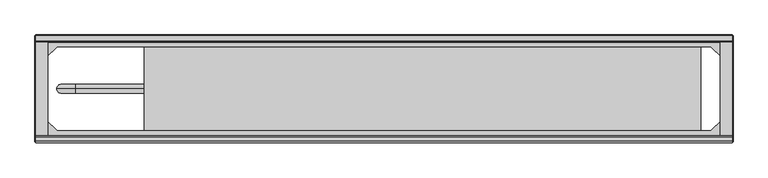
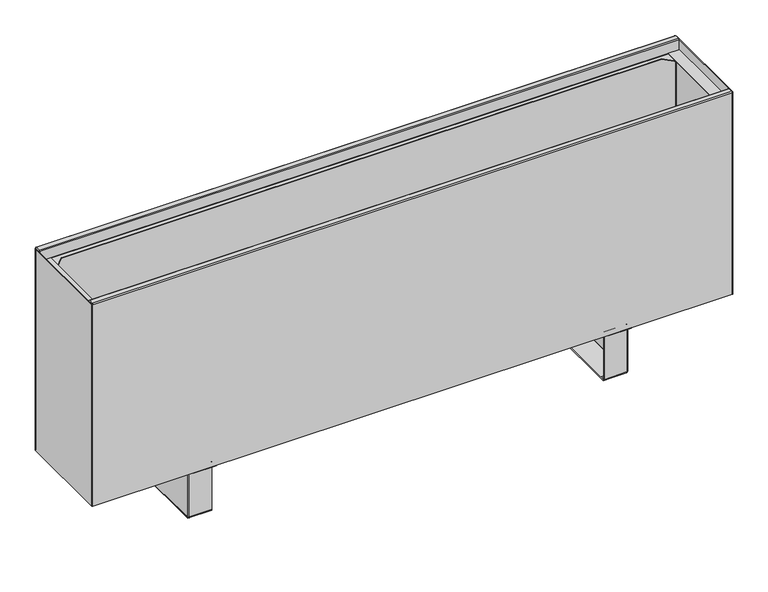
"""IFC4 building model written with IfcOpenShell, lengths in millimetres: proxy geometry, TECHNO_Конвектор напольный_Vita KPZ 185 : KPZ 185-400-2."""

from ifc_helpers import new_model, si_unit, point, frame, origin, place, context, project, spatial, polyline, circle_curve, ellipse_curve, trimmed, outline, extrude, source, transform, mapped, element, save
from ifc_brep_helpers import plane_surface, cylinder_surface, revolved_surface, advanced_brep


def mechanical_equipment_c19d1119(model_context):
    return source(origin(), model_context, "Body", "SolidModel", [
        advanced_brep(
        [(409.7, -116.8, 1.5), (409.7, -114.5, 3.8), (409.7, -114.5, 4.9), (409.7, -116.0, 4.9), (409.7, -116.0, 3.8), (409.7, -116.8, 3.0), (409.7, -124.5, 3.0), (409.7, -124.5, 1.5), (409.7, -117.6, 1.5), (409.7, -114.5, 97.7), (409.7, -113.7, 98.5), (409.7, -101.0, 98.5), (409.7, -101.0, 100.0), (409.7, -113.7, 100.0), (409.7, -116.0, 97.7), (409.7, -116.0, 95.5), (409.7, -114.5, 95.5), (409.7, -270.5, 3.8), (409.7, -268.2, 1.5), (409.7, -267.4, 1.5), (409.7, -260.5, 1.5), (409.7, -260.5, 3.0), (409.7, -268.2, 3.0), (409.7, -269.0, 3.8), (409.7, -269.0, 4.9), (409.7, -270.5, 4.9), (409.7, -269.0, 97.7), (409.7, -271.3, 100.0), (409.7, -284.0, 100.0), (409.7, -284.0, 98.5), (409.7, -271.3, 98.5), (409.7, -270.5, 97.7), (409.7, -270.5, 95.5), (409.7, -269.0, 95.5), (367.0, -270.5, 97.7), (367.0, -271.3, 98.5), (367.0, -284.0, 98.5), (367.0, -284.0, 100.0), (367.0, -271.3, 100.0), (367.0, -269.0, 97.7), (367.0, -269.0, 3.8), (367.0, -268.2, 3.0), (367.0, -260.5, 3.0), (367.0, -260.5, 1.5), (367.0, -124.5, 1.5), (367.0, -124.5, 3.0), (367.0, -116.8, 3.0), (367.0, -116.0, 3.8), (367.0, -116.0, 97.7), (367.0, -113.7, 100.0), (367.0, -101.0, 100.0), (367.0, -101.0, 98.5), (367.0, -113.7, 98.5), (367.0, -114.5, 97.7), (367.0, -114.5, 3.8), (367.0, -116.8, 1.5), (367.0, -117.6, 1.5), (367.0, -117.6, 0.0), (367.0, -267.4, 0.0), (367.0, -267.4, 1.5), (367.0, -268.2, 1.5), (367.0, -270.5, 3.8), (410.5, -116.8, 95.5), (410.5, -268.2, 95.5), (412.0, -268.2, 95.5), (412.0, -116.8, 95.5), (412.0, -116.8, 4.9), (412.0, -117.6, 4.9), (410.5, -117.6, 4.9), (410.5, -116.8, 4.9), (410.5, -268.2, 4.9), (410.5, -267.4, 4.9), (412.0, -267.4, 4.9), (412.0, -268.2, 4.9), (410.5, -117.6, 2.3), (410.5, -267.4, 2.3), (411.9999999, -267.4, 2.3), (412.0, -117.6, 2.3), (409.7, -117.6, 0.0), (409.7, -267.4, 0.0)],
        [
            (0, 1, circle_curve(frame((409.7, -116.8, 3.8), z_axis=(1.0, 0.0, 0.0), x_axis=(0.0, -1.0, 0.0)), 2.3)),
            (1, 2),
            (2, 3),
            (3, 4),
            (4, 5, circle_curve(frame((409.7, -116.8, 3.8), z_axis=(-1.0, 0.0, 0.0), x_axis=(0.0, -1.0, 0.0)), 0.8)),
            (5, 6),
            (6, 7),
            (7, 8),
            (8, 0),
            (9, 10, circle_curve(frame((409.7, -113.7, 97.7), z_axis=(-1.0, 0.0, 0.0), x_axis=(0.0, -1.0, 0.0)), 0.8)),
            (10, 11),
            (11, 12),
            (12, 13),
            (13, 14, circle_curve(frame((409.7, -113.7, 97.7), z_axis=(1.0, 0.0, 0.0), x_axis=(0.0, -1.0, 0.0)), 2.3)),
            (14, 15),
            (15, 16),
            (16, 9),
            (17, 18, circle_curve(frame((409.7, -268.2, 3.8), z_axis=(1.0, 0.0, 0.0), x_axis=(0.0, -1.0, 0.0)), 2.3)),
            (18, 19),
            (19, 20),
            (20, 21),
            (21, 22),
            (22, 23, circle_curve(frame((409.7, -268.2, 3.8), z_axis=(-1.0, 0.0, 0.0), x_axis=(0.0, -1.0, 0.0)), 0.8)),
            (23, 24),
            (24, 25),
            (25, 17),
            (26, 27, circle_curve(frame((409.7, -271.3, 97.7), z_axis=(1.0, 0.0, 0.0), x_axis=(0.0, -1.0, 0.0)), 2.3)),
            (27, 28),
            (28, 29),
            (29, 30),
            (30, 31, circle_curve(frame((409.7, -271.3, 97.7), z_axis=(-1.0, 0.0, 0.0), x_axis=(0.0, -1.0, 0.0)), 0.8)),
            (31, 32),
            (32, 33),
            (33, 26),
            (34, 35, circle_curve(frame((367.0, -271.3, 97.7), z_axis=(1.0, 0.0, 0.0), x_axis=(0.0, -1.0, 0.0)), 0.8)),
            (35, 36),
            (36, 37),
            (37, 38),
            (38, 39, circle_curve(frame((367.0, -271.3, 97.7), z_axis=(-1.0, 0.0, 0.0), x_axis=(0.0, -1.0, 0.0)), 2.3)),
            (39, 40),
            (40, 41, circle_curve(frame((367.0, -268.2, 3.8), z_axis=(1.0, 0.0, 0.0), x_axis=(0.0, -1.0, 0.0)), 0.8)),
            (41, 42),
            (42, 43),
            (43, 44),
            (44, 45),
            (45, 46),
            (46, 47, circle_curve(frame((367.0, -116.8, 3.8), z_axis=(1.0, 0.0, 0.0), x_axis=(0.0, -1.0, 0.0)), 0.8)),
            (47, 48),
            (48, 49, circle_curve(frame((367.0, -113.7, 97.7), z_axis=(-1.0, 0.0, 0.0), x_axis=(0.0, -1.0, 0.0)), 2.3)),
            (49, 50),
            (50, 51),
            (51, 52),
            (52, 53, circle_curve(frame((367.0, -113.7, 97.7), z_axis=(1.0, 0.0, 0.0), x_axis=(0.0, -1.0, 0.0)), 0.8)),
            (53, 54),
            (54, 55, circle_curve(frame((367.0, -116.8, 3.8), z_axis=(-1.0, 0.0, 0.0), x_axis=(0.0, -1.0, 0.0)), 2.3)),
            (55, 56),
            (56, 57),
            (57, 58),
            (58, 59),
            (59, 60),
            (60, 61, circle_curve(frame((367.0, -268.2, 3.8), z_axis=(-1.0, 0.0, 0.0), x_axis=(0.0, -1.0, 0.0)), 2.3)),
            (61, 34),
            (30, 35),
            (34, 31),
            (29, 36),
            (28, 37),
            (27, 38),
            (26, 39),
            (33, 24),
            (23, 40),
            (22, 41),
            (5, 46),
            (45, 6),
            (4, 47),
            (3, 15),
            (14, 48),
            (13, 49),
            (12, 50),
            (11, 51),
            (10, 52),
            (9, 53),
            (16, 2),
            (1, 54),
            (0, 55),
            (8, 56),
            (17, 61),
            (60, 18),
            (25, 32),
            (21, 42),
            (20, 43),
            (59, 19),
            (44, 7),
            (15, 62, circle_curve(frame((409.7, -116.8, 95.5), z_axis=(0.0, 0.0, -1.0), x_axis=(-1.0, 0.0, 0.0)), 0.8)),
            (62, 63),
            (63, 33, circle_curve(frame((409.7, -268.2, 95.5), z_axis=(0.0, 0.0, -1.0), x_axis=(-1.0, 0.0, 0.0)), 0.8)),
            (32, 64, circle_curve(frame((409.7, -268.2, 95.5), z_axis=(0.0, 0.0, 1.0), x_axis=(-1.0, 0.0, 0.0)), 2.3)),
            (64, 65),
            (65, 16, circle_curve(frame((409.7, -116.8, 95.5), z_axis=(0.0, 0.0, 1.0), x_axis=(-1.0, 0.0, 0.0)), 2.3)),
            (2, 66, circle_curve(frame((409.7, -116.8, 4.9), z_axis=(0.0, 0.0, -1.0), x_axis=(-1.0, 0.0, 0.0)), 2.3)),
            (66, 67),
            (67, 68),
            (68, 69),
            (69, 3, circle_curve(frame((409.7, -116.8, 4.9), z_axis=(0.0, 0.0, 1.0), x_axis=(-1.0, 0.0, 0.0)), 0.8)),
            (24, 70, circle_curve(frame((409.7, -268.2, 4.9), z_axis=(0.0, 0.0, 1.0), x_axis=(-1.0, 0.0, 0.0)), 0.8)),
            (70, 71),
            (71, 72),
            (72, 73),
            (73, 25, circle_curve(frame((409.7, -268.2, 4.9), z_axis=(0.0, 0.0, -1.0), x_axis=(-1.0, 0.0, 0.0)), 2.3)),
            (69, 62),
            (68, 74),
            (74, 75),
            (75, 71),
            (70, 63),
            (64, 73),
            (72, 76),
            (76, 77),
            (77, 67),
            (66, 65),
            (8, 74, circle_curve(frame((409.7, -117.6, 2.3), z_axis=(0.0, -1.0, 0.0), x_axis=(-1.0, 0.0, 0.0)), 0.8)),
            (77, 78, circle_curve(frame((409.7, -117.6, 2.3), z_axis=(0.0, 1.0, 0.0), x_axis=(-1.0, 0.0, 0.0)), 2.3)),
            (78, 57),
            (58, 79),
            (79, 76, circle_curve(frame((409.7, -267.4, 2.3), z_axis=(0.0, -1.0, 0.0), x_axis=(-1.0, 0.0, 0.0)), 2.3)),
            (75, 19, circle_curve(frame((409.7, -267.4, 2.3), z_axis=(0.0, 1.0, 0.0), x_axis=(-1.0, 0.0, 0.0)), 0.8)),
            (20, 7),
            (79, 78),
        ],
        [
            plane_surface(frame((409.7, -272.1, 97.7), z_axis=(1.0, 0.0, 0.0), x_axis=(0.0, 0.0, 1.0))),
            plane_surface(frame((367.0, -272.1, 97.7), z_axis=(-1.0, 0.0, 0.0), x_axis=(0.0, 0.0, -1.0))),
            revolved_surface(polyline([(409.7, -272.1, 97.7), (367.0, -272.1, 97.7)]), (409.7, -271.3, 97.7), (1.0, 0.0, 0.0)),
            plane_surface(frame((367.0, -271.3, 98.5), z_axis=(0.0, 0.0, -1.0), x_axis=(1.0, 0.0, 0.0))),
            plane_surface(frame((367.0, -284.0, 98.5), z_axis=(0.0, -1.0, 0.0), x_axis=(1.0, 0.0, 0.0))),
            plane_surface(frame((367.0, -284.0, 100.0), z_axis=(0.0, 0.0, 1.0), x_axis=(1.0, 0.0, 0.0))),
            cylinder_surface(frame((409.7, -271.3, 97.7), z_axis=(-1.0, 0.0, 0.0), x_axis=(0.0, -1.0, 0.0)), 2.3),
            plane_surface(frame((367.0, -269.0, 97.7), z_axis=(0.0, 1.0, 3.692083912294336e-12), x_axis=(1.0, 0.0, 0.0))),
            revolved_surface(polyline([(409.7, -269.0, 3.8), (367.0, -269.0, 3.8)]), (409.7, -268.2, 3.8), (1.0, 0.0, 0.0)),
            plane_surface(frame((367.0, -124.5, 3.0), z_axis=(0.0, 0.0, 1.0), x_axis=(1.0, 0.0, 0.0))),
            revolved_surface(polyline([(409.7, -117.6, 3.8), (367.0, -117.6, 3.8)]), (412.0, -116.8, 3.8), (1.0, 0.0, 0.0)),
            plane_surface(frame((367.0, -116.0, 3.8), z_axis=(0.0, -1.0, 0.0), x_axis=(1.0, 0.0, 0.0))),
            cylinder_surface(frame((412.0, -113.7, 97.7), z_axis=(-1.0, 0.0, 0.0), x_axis=(0.0, -1.0, 0.0)), 2.3),
            plane_surface(frame((367.0, -113.7, 100.0), z_axis=(0.0, 0.0, 1.0), x_axis=(1.0, 0.0, 0.0))),
            plane_surface(frame((367.0, -101.0, 100.0), z_axis=(0.0, 1.0, 0.0), x_axis=(1.0, 0.0, 0.0))),
            plane_surface(frame((367.0, -101.0, 98.5), z_axis=(0.0, 0.0, -1.0), x_axis=(1.0, 0.0, 0.0))),
            revolved_surface(polyline([(409.7, -114.5, 97.7), (367.0, -114.5, 97.7)]), (412.0, -113.7, 97.7), (1.0, 0.0, 0.0)),
            plane_surface(frame((367.0, -114.5, 97.7), z_axis=(0.0, 1.0, 0.0), x_axis=(1.0, 0.0, 0.0))),
            cylinder_surface(frame((412.0, -116.8, 3.8), z_axis=(-1.0, 0.0, 0.0), x_axis=(0.0, -1.0, 0.0)), 2.3),
            plane_surface(frame((367.0, -116.8, 1.5), z_axis=(0.0, 0.0, -1.0), x_axis=(1.0, 0.0, 0.0))),
            cylinder_surface(frame((409.7, -268.2, 3.8), z_axis=(-1.0, 0.0, 0.0), x_axis=(0.0, -1.0, 0.0)), 2.3),
            plane_surface(frame((367.0, -270.5, 3.8), z_axis=(0.0, -1.0, 0.0), x_axis=(1.0, 0.0, 0.0))),
            plane_surface(frame((367.0, -268.2, 3.0), z_axis=(0.0, 0.0, 1.0), x_axis=(1.0, 0.0, 0.0))),
            plane_surface(frame((367.0, -260.5, 3.0), z_axis=(0.0, 1.0, 0.0), x_axis=(1.0, 0.0, 0.0))),
            plane_surface(frame((367.0, -260.5, 1.5), z_axis=(0.0, 0.0, -1.0), x_axis=(1.0, 0.0, 0.0))),
            plane_surface(frame((367.0, -124.5, 1.5), z_axis=(0.0, -1.0, 0.0), x_axis=(1.0, 0.0, 0.0))),
            plane_surface(frame((409.7, -116.0, 95.5), z_axis=(0.0, 0.0, 1.0), x_axis=(0.0, -1.0, 0.0))),
            plane_surface(frame((409.7, -116.0, 4.9), z_axis=(0.0, 0.0, -1.0), x_axis=(0.0, 1.0, 0.0))),
            revolved_surface(polyline([(408.9, -116.8, 4.9), (408.9, -116.8, 95.5)]), (409.7, -116.8, 4.9), (0.0, 0.0, -1.0)),
            plane_surface(frame((410.5, -116.8, 95.5), z_axis=(-1.0, 0.0, 0.0), x_axis=(0.0, 0.0, -1.0))),
            plane_surface(frame((412.0, -117.6, 95.5), z_axis=(1.0, -4.322665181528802e-10, 0.0), x_axis=(0.0, 0.0, -1.0))),
            cylinder_surface(frame((409.7, -116.8, 4.9), z_axis=(0.0, 0.0, 1.0), x_axis=(-1.0, 0.0, 0.0)), 2.3),
            cylinder_surface(frame((409.7, -268.2, 0.0), z_axis=(0.0, 0.0, 1.0), x_axis=(-1.0, 0.0, 0.0)), 2.3),
            revolved_surface(polyline([(408.9, -268.2, 4.9), (408.9, -268.2, 95.5)]), (409.7, -268.2, 0.0), (0.0, 0.0, -1.0)),
            plane_surface(frame((367.0, -117.6, 1.5), z_axis=(0.0, 1.0, 0.0), x_axis=(0.0, 0.0, 1.0))),
            plane_surface(frame((367.0, -267.4, 1.5), z_axis=(0.0, -1.0, 0.0), x_axis=(0.0, 0.0, -1.0))),
            plane_surface(frame((367.0, -117.6, 1.5), z_axis=(0.0, 0.0, 1.0), x_axis=(0.0, -1.0, 0.0))),
            revolved_surface(polyline([(408.9, -267.4, 2.3), (408.9, -117.6, 2.3)]), (409.7, -267.4, 2.3), (0.0, -1.0, 0.0)),
            cylinder_surface(frame((409.7, -267.4, 2.3), z_axis=(0.0, 1.0, 0.0), x_axis=(-1.0, 0.0, 0.0)), 2.3),
            plane_surface(frame((409.7, -117.6, 0.0), z_axis=(0.0, 0.0, -1.0), x_axis=(0.0, -1.0, 0.0))),
        ],
        [
            (0, [[1, 2, 3, 4, 5, 6, 7, 8, 9]]),
            (0, [[10, 11, 12, 13, 14, 15, 16, 17]]),
            (0, [[18, 19, 20, 21, 22, 23, 24, 25, 26]]),
            (0, [[27, 28, 29, 30, 31, 32, 33, 34]]),
            (1, [[35, 36, 37, 38, 39, 40, 41, 42, 43, 44, 45, 46, 47, 48, 49, 50, 51, 52, 53, 54, 55, 56, 57, 58, 59, 60, 61, 62]]),
            (2, [[-31, 63, -35, 64]]),
            (3, [[-30, 65, -36, -63]]),
            (4, [[-29, 66, -37, -65]]),
            (5, [[-28, 67, -38, -66]]),
            (6, [[-27, 68, -39, -67]]),
            (7, [[-40, -68, -34, 69, -24, 70]]),
            (8, [[-23, 71, -41, -70]]),
            (9, [[-6, 72, -46, 73]]),
            (10, [[-5, 74, -47, -72]]),
            (11, [[-48, -74, -4, 75, -15, 76]]),
            (12, [[-14, 77, -49, -76]]),
            (13, [[-13, 78, -50, -77]]),
            (14, [[-12, 79, -51, -78]]),
            (15, [[-11, 80, -52, -79]]),
            (16, [[-10, 81, -53, -80]]),
            (17, [[-54, -81, -17, 82, -2, 83]]),
            (18, [[-1, 84, -55, -83]]),
            (19, [[-84, -9, 85, -56]]),
            (20, [[-18, 86, -61, 87]]),
            (21, [[-62, -86, -26, 88, -32, -64]]),
            (22, [[-22, 89, -42, -71]]),
            (23, [[-21, 90, -43, -89]]),
            (24, [[-87, -60, 91, -19]]),
            (25, [[-7, -73, -45, 92]]),
            (26, [[93, 94, 95, -33, 96, 97, 98, -16]]),
            (27, [[99, 100, 101, 102, 103, -3]]),
            (27, [[104, 105, 106, 107, 108, -25]]),
            (28, [[-93, -75, -103, 109]]),
            (29, [[-94, -109, -102, 110, 111, 112, -105, 113]]),
            (30, [[-97, 114, -107, 115, 116, 117, -100, 118]]),
            (31, [[-98, -118, -99, -82]]),
            (32, [[-96, -88, -108, -114]]),
            (33, [[-95, -113, -104, -69]]),
            (34, [[-57, -85, 119, -110, -101, -117, 120, 121]]),
            (35, [[122, 123, -115, -106, -112, 124, -91, -59]]),
            (36, [[125, -92, -44, -90]]),
            (37, [[-119, -8, -125, -20, -124, -111]]),
            (38, [[-120, -116, -123, 126]]),
            (39, [[-121, -126, -122, -58]]),
        ],
    ),
        advanced_brep(
        [(-409.7, -268.2, 1.5), (-409.7, -270.5, 3.8), (-409.7, -270.5, 4.9), (-409.7, -269.0, 4.9), (-409.7, -269.0, 3.8), (-409.7, -268.2, 3.0), (-409.7, -260.5, 3.0), (-409.7, -260.5, 1.5), (-409.7, -267.4, 1.5), (-409.7, -270.5, 97.7), (-409.7, -271.3, 98.5), (-409.7, -284.0, 98.5), (-409.7, -284.0, 100.0), (-409.7, -271.3, 100.0), (-409.7, -269.0, 97.7), (-409.7, -269.0, 95.5), (-409.7, -270.5, 95.5), (-409.7, -114.5, 3.8), (-409.7, -116.8, 1.5), (-409.7, -117.6, 1.5), (-409.7, -124.5, 1.5), (-409.7, -124.5, 3.0), (-409.7, -116.8, 3.0), (-409.7, -116.0, 3.8), (-409.7, -116.0, 4.9), (-409.7, -114.5, 4.9), (-409.7, -116.0, 97.7), (-409.7, -113.7, 100.0), (-409.7, -101.0, 100.0), (-409.7, -101.0, 98.5), (-409.7, -113.7, 98.5), (-409.7, -114.5, 97.7), (-409.7, -114.5, 95.5), (-409.7, -116.0, 95.5), (-367.0, -114.5, 97.7), (-367.0, -113.7, 98.5), (-367.0, -101.0, 98.5), (-367.0, -101.0, 100.0), (-367.0, -113.7, 100.0), (-367.0, -116.0, 97.7), (-367.0, -116.0, 3.8), (-367.0, -116.8, 3.0), (-367.0, -124.5, 3.0), (-367.0, -124.5, 1.5), (-367.0, -260.5, 1.5), (-367.0, -260.5, 3.0), (-367.0, -268.2, 3.0), (-367.0, -269.0, 3.8), (-367.0, -269.0, 97.7), (-367.0, -271.3, 100.0), (-367.0, -284.0, 100.0), (-367.0, -284.0, 98.5), (-367.0, -271.3, 98.5), (-367.0, -270.5, 97.7), (-367.0, -270.5, 3.8), (-367.0, -268.2, 1.5), (-367.0, -267.4, 1.5), (-367.0, -267.4, 0.0), (-367.0, -117.6, 0.0), (-367.0, -117.6, 1.5), (-367.0, -116.8, 1.5), (-367.0, -114.5, 3.8), (-410.5, -268.2, 95.5), (-410.5, -116.8, 95.5), (-412.0, -116.8, 95.5), (-412.0, -268.2, 95.5), (-412.0, -268.2, 4.9), (-412.0, -267.4, 4.9), (-410.5, -267.4, 4.9), (-410.5, -268.2, 4.9), (-410.5, -116.8, 4.9), (-410.5, -117.6, 4.9), (-412.0, -117.6, 4.9), (-412.0, -116.8, 4.9), (-410.5, -267.4, 2.3), (-410.5, -117.6, 2.3), (-411.9999999, -117.6, 2.3), (-412.0, -267.4, 2.3), (-409.7, -267.4, 0.0), (-409.7, -117.6, 0.0)],
        [
            (0, 1, circle_curve(frame((-409.7, -268.2, 3.8), z_axis=(-1.0, 0.0, 0.0), x_axis=(0.0, 1.0, 0.0)), 2.3)),
            (1, 2),
            (2, 3),
            (3, 4),
            (4, 5, circle_curve(frame((-409.7, -268.2, 3.8), z_axis=(1.0, 0.0, 0.0), x_axis=(0.0, 1.0, 0.0)), 0.8)),
            (5, 6),
            (6, 7),
            (7, 8),
            (8, 0),
            (9, 10, circle_curve(frame((-409.7, -271.3, 97.7), z_axis=(1.0, 0.0, 0.0), x_axis=(0.0, 1.0, 0.0)), 0.8)),
            (10, 11),
            (11, 12),
            (12, 13),
            (13, 14, circle_curve(frame((-409.7, -271.3, 97.7), z_axis=(-1.0, 0.0, 0.0), x_axis=(0.0, 1.0, 0.0)), 2.3)),
            (14, 15),
            (15, 16),
            (16, 9),
            (17, 18, circle_curve(frame((-409.7, -116.8, 3.8), z_axis=(-1.0, 0.0, 0.0), x_axis=(0.0, 1.0, 0.0)), 2.3)),
            (18, 19),
            (19, 20),
            (20, 21),
            (21, 22),
            (22, 23, circle_curve(frame((-409.7, -116.8, 3.8), z_axis=(1.0, 0.0, 0.0), x_axis=(0.0, 1.0, 0.0)), 0.8)),
            (23, 24),
            (24, 25),
            (25, 17),
            (26, 27, circle_curve(frame((-409.7, -113.7, 97.7), z_axis=(-1.0, 0.0, 0.0), x_axis=(0.0, 1.0, 0.0)), 2.3)),
            (27, 28),
            (28, 29),
            (29, 30),
            (30, 31, circle_curve(frame((-409.7, -113.7, 97.7), z_axis=(1.0, 0.0, 0.0), x_axis=(0.0, 1.0, 0.0)), 0.8)),
            (31, 32),
            (32, 33),
            (33, 26),
            (34, 35, circle_curve(frame((-367.0, -113.7, 97.7), z_axis=(-1.0, 0.0, 0.0), x_axis=(0.0, 1.0, 0.0)), 0.8)),
            (35, 36),
            (36, 37),
            (37, 38),
            (38, 39, circle_curve(frame((-367.0, -113.7, 97.7), z_axis=(1.0, 0.0, 0.0), x_axis=(0.0, 1.0, 0.0)), 2.3)),
            (39, 40),
            (40, 41, circle_curve(frame((-367.0, -116.8, 3.8), z_axis=(-1.0, 0.0, 0.0), x_axis=(0.0, 1.0, 0.0)), 0.8)),
            (41, 42),
            (42, 43),
            (43, 44),
            (44, 45),
            (45, 46),
            (46, 47, circle_curve(frame((-367.0, -268.2, 3.8), z_axis=(-1.0, 0.0, 0.0), x_axis=(0.0, 1.0, 0.0)), 0.8)),
            (47, 48),
            (48, 49, circle_curve(frame((-367.0, -271.3, 97.7), z_axis=(1.0, 0.0, 0.0), x_axis=(0.0, 1.0, 0.0)), 2.3)),
            (49, 50),
            (50, 51),
            (51, 52),
            (52, 53, circle_curve(frame((-367.0, -271.3, 97.7), z_axis=(-1.0, 0.0, 0.0), x_axis=(0.0, 1.0, 0.0)), 0.8)),
            (53, 54),
            (54, 55, circle_curve(frame((-367.0, -268.2, 3.8), z_axis=(1.0, 0.0, 0.0), x_axis=(0.0, 1.0, 0.0)), 2.3)),
            (55, 56),
            (56, 57),
            (57, 58),
            (58, 59),
            (59, 60),
            (60, 61, circle_curve(frame((-367.0, -116.8, 3.8), z_axis=(1.0, 0.0, 0.0), x_axis=(0.0, 1.0, 0.0)), 2.3)),
            (61, 34),
            (30, 35),
            (34, 31),
            (29, 36),
            (28, 37),
            (27, 38),
            (26, 39),
            (33, 24),
            (23, 40),
            (22, 41),
            (5, 46),
            (45, 6),
            (4, 47),
            (3, 15),
            (14, 48),
            (13, 49),
            (12, 50),
            (11, 51),
            (10, 52),
            (9, 53),
            (16, 2),
            (1, 54),
            (0, 55),
            (8, 56),
            (17, 61),
            (60, 18),
            (25, 32),
            (21, 42),
            (20, 43),
            (59, 19),
            (44, 7),
            (15, 62, circle_curve(frame((-409.7, -268.2, 95.5), z_axis=(0.0, 0.0, -1.0), x_axis=(1.0, 0.0, 0.0)), 0.8)),
            (62, 63),
            (63, 33, circle_curve(frame((-409.7, -116.8, 95.5), z_axis=(0.0, 0.0, -1.0), x_axis=(1.0, 0.0, 0.0)), 0.8)),
            (32, 64, circle_curve(frame((-409.7, -116.8, 95.5), z_axis=(0.0, 0.0, 1.0), x_axis=(1.0, 0.0, 0.0)), 2.3)),
            (64, 65),
            (65, 16, circle_curve(frame((-409.7, -268.2, 95.5), z_axis=(0.0, 0.0, 1.0), x_axis=(1.0, 0.0, 0.0)), 2.3)),
            (2, 66, circle_curve(frame((-409.7, -268.2, 4.9), z_axis=(0.0, 0.0, -1.0), x_axis=(1.0, 0.0, 0.0)), 2.3)),
            (66, 67),
            (67, 68),
            (68, 69),
            (69, 3, circle_curve(frame((-409.7, -268.2, 4.9), z_axis=(0.0, 0.0, 1.0), x_axis=(1.0, 0.0, 0.0)), 0.8)),
            (24, 70, circle_curve(frame((-409.7, -116.8, 4.9), z_axis=(0.0, 0.0, 1.0), x_axis=(1.0, 0.0, 0.0)), 0.8)),
            (70, 71),
            (71, 72),
            (72, 73),
            (73, 25, circle_curve(frame((-409.7, -116.8, 4.9), z_axis=(0.0, 0.0, -1.0), x_axis=(1.0, 0.0, 0.0)), 2.3)),
            (69, 62),
            (68, 74),
            (74, 75),
            (75, 71),
            (70, 63),
            (64, 73),
            (72, 76),
            (76, 77),
            (77, 67),
            (66, 65),
            (8, 74, circle_curve(frame((-409.7, -267.4, 2.3), z_axis=(0.0, 1.0, 0.0), x_axis=(1.0, 0.0, 0.0)), 0.8)),
            (77, 78, circle_curve(frame((-409.7, -267.4, 2.3), z_axis=(0.0, -1.0, 0.0), x_axis=(1.0, 0.0, 0.0)), 2.3)),
            (78, 57),
            (58, 79),
            (79, 76, circle_curve(frame((-409.7, -117.6, 2.3), z_axis=(0.0, 1.0, 0.0), x_axis=(1.0, 0.0, 0.0)), 2.3)),
            (75, 19, circle_curve(frame((-409.7, -117.6, 2.3), z_axis=(0.0, -1.0, 0.0), x_axis=(1.0, 0.0, 0.0)), 0.8)),
            (20, 7),
            (79, 78),
        ],
        [
            plane_surface(frame((-409.7, -112.9, 97.7), z_axis=(-1.0, 0.0, 0.0), x_axis=(0.0, 0.0, 1.0))),
            plane_surface(frame((-367.0, -112.9, 97.7), z_axis=(1.0, 0.0, 0.0), x_axis=(0.0, 0.0, -1.0))),
            revolved_surface(polyline([(-409.7, -112.9, 97.7), (-367.0, -112.9, 97.7)]), (-409.7, -113.7, 97.7), (-1.0, 0.0, 0.0)),
            plane_surface(frame((-367.0, -113.7, 98.5), z_axis=(0.0, 0.0, -1.0), x_axis=(-1.0, 0.0, 0.0))),
            plane_surface(frame((-367.0, -101.0, 98.5), z_axis=(0.0, 1.0, 0.0), x_axis=(-1.0, 0.0, 0.0))),
            plane_surface(frame((-367.0, -101.0, 100.0), z_axis=(0.0, 0.0, 1.0), x_axis=(-1.0, 0.0, 0.0))),
            cylinder_surface(frame((-409.7, -113.7, 97.7), z_axis=(1.0, 0.0, 0.0), x_axis=(0.0, 1.0, 0.0)), 2.3),
            plane_surface(frame((-367.0, -116.0, 97.7), z_axis=(0.0, -1.0, 3.692083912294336e-12), x_axis=(-1.0, 0.0, 0.0))),
            revolved_surface(polyline([(-409.7, -116.0, 3.8), (-367.0, -116.0, 3.8)]), (-409.7, -116.8, 3.8), (-1.0, 0.0, 0.0)),
            plane_surface(frame((-367.0, -260.5, 3.0), z_axis=(0.0, 0.0, 1.0), x_axis=(-1.0, 0.0, 0.0))),
            revolved_surface(polyline([(-409.7, -267.4, 3.8), (-367.0, -267.4, 3.8)]), (-412.0, -268.2, 3.8), (-1.0, 0.0, 0.0)),
            plane_surface(frame((-367.0, -269.0, 3.8), z_axis=(0.0, 1.0, 0.0), x_axis=(-1.0, 0.0, 0.0))),
            cylinder_surface(frame((-412.0, -271.3, 97.7), z_axis=(1.0, 0.0, 0.0), x_axis=(0.0, 1.0, 0.0)), 2.3),
            plane_surface(frame((-367.0, -271.3, 100.0), z_axis=(0.0, 0.0, 1.0), x_axis=(-1.0, 0.0, 0.0))),
            plane_surface(frame((-367.0, -284.0, 100.0), z_axis=(0.0, -1.0, 0.0), x_axis=(-1.0, 0.0, 0.0))),
            plane_surface(frame((-367.0, -284.0, 98.5), z_axis=(0.0, 0.0, -1.0), x_axis=(-1.0, 0.0, 0.0))),
            revolved_surface(polyline([(-409.7, -270.5, 97.7), (-367.0, -270.5, 97.7)]), (-412.0, -271.3, 97.7), (-1.0, 0.0, 0.0)),
            plane_surface(frame((-367.0, -270.5, 97.7), z_axis=(0.0, -1.0, 0.0), x_axis=(-1.0, 0.0, 0.0))),
            cylinder_surface(frame((-412.0, -268.2, 3.8), z_axis=(1.0, 0.0, 0.0), x_axis=(0.0, 1.0, 0.0)), 2.3),
            plane_surface(frame((-367.0, -268.2, 1.5), z_axis=(0.0, 0.0, -1.0), x_axis=(-1.0, 0.0, 0.0))),
            cylinder_surface(frame((-409.7, -116.8, 3.8), z_axis=(1.0, 0.0, 0.0), x_axis=(0.0, 1.0, 0.0)), 2.3),
            plane_surface(frame((-367.0, -114.5, 3.8), z_axis=(0.0, 1.0, 0.0), x_axis=(-1.0, 0.0, 0.0))),
            plane_surface(frame((-367.0, -116.8, 3.0), z_axis=(0.0, 0.0, 1.0), x_axis=(-1.0, 0.0, 0.0))),
            plane_surface(frame((-367.0, -124.5, 3.0), z_axis=(0.0, -1.0, 0.0), x_axis=(-1.0, 0.0, 0.0))),
            plane_surface(frame((-367.0, -124.5, 1.5), z_axis=(0.0, 0.0, -1.0), x_axis=(-1.0, 0.0, 0.0))),
            plane_surface(frame((-367.0, -260.5, 1.5), z_axis=(0.0, 1.0, 0.0), x_axis=(-1.0, 0.0, 0.0))),
            plane_surface(frame((-409.7, -269.0, 95.5), z_axis=(0.0, 0.0, 1.0), x_axis=(0.0, 1.0, 0.0))),
            plane_surface(frame((-409.7, -269.0, 4.9), z_axis=(0.0, 0.0, -1.0), x_axis=(0.0, -1.0, 0.0))),
            revolved_surface(polyline([(-408.9, -268.2, 4.9), (-408.9, -268.2, 95.5)]), (-409.7, -268.2, 4.9), (0.0, 0.0, -1.0)),
            plane_surface(frame((-410.5, -268.2, 95.5), z_axis=(1.0, 0.0, 0.0), x_axis=(0.0, 0.0, -1.0))),
            plane_surface(frame((-412.0, -267.4, 95.5), z_axis=(-1.0, 4.3226335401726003e-10, 0.0), x_axis=(0.0, 0.0, -1.0))),
            cylinder_surface(frame((-409.7, -268.2, 4.9), z_axis=(0.0, 0.0, 1.0), x_axis=(1.0, 0.0, 0.0)), 2.3),
            cylinder_surface(frame((-409.7, -116.8, 0.0), z_axis=(0.0, 0.0, 1.0), x_axis=(1.0, 0.0, 0.0)), 2.3),
            revolved_surface(polyline([(-408.9, -116.8, 4.9), (-408.9, -116.8, 95.5)]), (-409.7, -116.8, 0.0), (0.0, 0.0, -1.0)),
            plane_surface(frame((-367.0, -267.4, 1.5), z_axis=(0.0, -1.0, 0.0), x_axis=(0.0, 0.0, 1.0))),
            plane_surface(frame((-367.0, -117.6, 1.5), z_axis=(0.0, 1.0, 0.0), x_axis=(0.0, 0.0, -1.0))),
            plane_surface(frame((-367.0, -267.4, 1.5), z_axis=(0.0, 0.0, 1.0), x_axis=(0.0, 1.0, 0.0))),
            revolved_surface(polyline([(-408.9, -117.6, 2.3), (-408.9, -267.4, 2.3)]), (-409.7, -117.6, 2.3), (0.0, 1.0, 0.0)),
            cylinder_surface(frame((-409.7, -117.6, 2.3), z_axis=(0.0, -1.0, 0.0), x_axis=(1.0, 0.0, 0.0)), 2.3),
            plane_surface(frame((-409.7, -267.4, 0.0), z_axis=(0.0, 0.0, -1.0), x_axis=(0.0, 1.0, 0.0))),
        ],
        [
            (0, [[1, 2, 3, 4, 5, 6, 7, 8, 9]]),
            (0, [[10, 11, 12, 13, 14, 15, 16, 17]]),
            (0, [[18, 19, 20, 21, 22, 23, 24, 25, 26]]),
            (0, [[27, 28, 29, 30, 31, 32, 33, 34]]),
            (1, [[35, 36, 37, 38, 39, 40, 41, 42, 43, 44, 45, 46, 47, 48, 49, 50, 51, 52, 53, 54, 55, 56, 57, 58, 59, 60, 61, 62]]),
            (2, [[-31, 63, -35, 64]]),
            (3, [[-30, 65, -36, -63]]),
            (4, [[-29, 66, -37, -65]]),
            (5, [[-28, 67, -38, -66]]),
            (6, [[-27, 68, -39, -67]]),
            (7, [[-40, -68, -34, 69, -24, 70]]),
            (8, [[-23, 71, -41, -70]]),
            (9, [[-6, 72, -46, 73]]),
            (10, [[-5, 74, -47, -72]]),
            (11, [[-48, -74, -4, 75, -15, 76]]),
            (12, [[-14, 77, -49, -76]]),
            (13, [[-13, 78, -50, -77]]),
            (14, [[-12, 79, -51, -78]]),
            (15, [[-11, 80, -52, -79]]),
            (16, [[-10, 81, -53, -80]]),
            (17, [[-54, -81, -17, 82, -2, 83]]),
            (18, [[-1, 84, -55, -83]]),
            (19, [[-84, -9, 85, -56]]),
            (20, [[-18, 86, -61, 87]]),
            (21, [[-62, -86, -26, 88, -32, -64]]),
            (22, [[-22, 89, -42, -71]]),
            (23, [[-21, 90, -43, -89]]),
            (24, [[-87, -60, 91, -19]]),
            (25, [[-7, -73, -45, 92]]),
            (26, [[93, 94, 95, -33, 96, 97, 98, -16]]),
            (27, [[99, 100, 101, 102, 103, -3]]),
            (27, [[104, 105, 106, 107, 108, -25]]),
            (28, [[-93, -75, -103, 109]]),
            (29, [[-94, -109, -102, 110, 111, 112, -105, 113]]),
            (30, [[-97, 114, -107, 115, 116, 117, -100, 118]]),
            (31, [[-98, -118, -99, -82]]),
            (32, [[-96, -88, -108, -114]]),
            (33, [[-95, -113, -104, -69]]),
            (34, [[-57, -85, 119, -110, -101, -117, 120, 121]]),
            (35, [[122, 123, -115, -106, -112, 124, -91, -59]]),
            (36, [[125, -92, -44, -90]]),
            (37, [[-119, -8, -125, -20, -124, -111]]),
            (38, [[-120, -116, -123, 126]]),
            (39, [[-121, -126, -122, -58]]),
        ],
    ),
        advanced_brep(
        [(-412.0, -192.5, 186.5), (-412.0, -192.5, 171.5), (-530.0, -192.5, 186.5), (-530.0, -192.5, 171.5), (-547.5, -192.5, 154.0), (-562.5, -192.5, 154.0), (-562.5, -192.5, 100.0), (-547.5, -192.5, 100.0)],
        [
            (0, 1, circle_curve(frame((-412.0, -192.5, 179.0), z_axis=(1.0, 0.0, 0.0), x_axis=(0.0, 0.0, -1.0)), 7.5)),
            (1, 0, circle_curve(frame((-412.0, -192.5, 179.0), z_axis=(1.0, 0.0, 0.0), x_axis=(0.0, 0.0, -1.0)), 7.5)),
            (0, 2),
            (2, 3, circle_curve(frame((-530.0, -192.5, 179.0), z_axis=(1.0, 0.0, 0.0), x_axis=(0.0, 0.0, -1.0)), 7.5)),
            (3, 1),
            (3, 2, circle_curve(frame((-530.0, -192.5, 179.0), z_axis=(1.0, 0.0, 0.0), x_axis=(0.0, 0.0, -1.0)), 7.5)),
            (4, 3, circle_curve(frame((-530.0, -192.5, 154.0), z_axis=(0.0, 1.0, 0.0), x_axis=(0.0, 0.0, 1.0)), 17.5)),
            (2, 5, circle_curve(frame((-530.0, -192.5, 154.0), z_axis=(0.0, -1.0, 0.0), x_axis=(0.0, 0.0, 1.0)), 32.5)),
            (5, 4, circle_curve(frame((-555.0, -192.5, 154.0), z_axis=(0.0, 0.0, 1.0), x_axis=(1.0, 0.0, 0.0)), 7.5)),
            (4, 5, circle_curve(frame((-555.0, -192.5, 154.0), z_axis=(0.0, 0.0, 1.0), x_axis=(1.0, 0.0, 0.0)), 7.5)),
            (6, 7, circle_curve(frame((-555.0, -192.5, 100.0), z_axis=(0.0, 0.0, -1.0), x_axis=(1.0, 0.0, 0.0)), 7.5)),
            (7, 6, circle_curve(frame((-555.0, -192.5, 100.0), z_axis=(0.0, 0.0, -1.0), x_axis=(1.0, 0.0, 0.0)), 7.5)),
            (5, 6),
            (7, 4),
        ],
        [
            plane_surface(frame((-412.0, -192.5, 179.0), z_axis=(1.0, 0.0, 0.0), x_axis=(0.0, -1.0, 0.0))),
            cylinder_surface(frame((-412.0, -192.5, 179.0), z_axis=(1.0, 0.0, 0.0), x_axis=(0.0, 0.0, -1.0)), 7.5),
            revolved_surface(trimmed(ellipse_curve(frame((-530.0, -192.5, 179.0), z_axis=(1.0, 0.0, 0.0), x_axis=(0.0, 0.0, -1.0)), 7.5, 7.5), [point((-530.0, -192.5, 186.5))], [point((-530.0, -192.5, 171.5))], True, "CARTESIAN"), (-530.0, -192.5, 154.0), (0.0, -1.0, 0.0)),
            revolved_surface(trimmed(ellipse_curve(frame((-530.0, -192.5, 179.0), z_axis=(1.0, 0.0, 0.0), x_axis=(0.0, 0.0, -1.0)), 7.5, 7.5), [point((-530.0, -192.5, 171.5))], [point((-530.0, -192.5, 186.5))], True, "CARTESIAN"), (-530.0, -192.5, 154.0), (0.0, -1.0, 0.0)),
            plane_surface(frame((-555.0, -192.5, 100.0), z_axis=(0.0, 0.0, -1.0), x_axis=(0.0, -1.0, 0.0))),
            cylinder_surface(frame((-555.0, -192.5, 154.0), z_axis=(0.0, 0.0, 1.0), x_axis=(1.0, 0.0, 0.0)), 7.5),
        ],
        [
            (0, [[1, 2]]),
            (1, [[-1, 3, 4, 5]]),
            (1, [[-2, -5, 6, -3]]),
            (2, [[7, -4, 8, 9]]),
            (3, [[-8, -6, -7, 10]]),
            (4, [[11, 12]]),
            (5, [[-9, 13, -12, 14]]),
            (5, [[-10, -14, -11, -13]]),
        ],
    ),
        advanced_brep(
        [(-412.0, -192.5, 136.5), (-412.0, -192.5, 121.5), (-512.5, -192.5, 136.5), (-497.5, -192.5, 121.5), (-512.5, -192.5, 100.0), (-497.5, -192.5, 100.0)],
        [
            (0, 1, circle_curve(frame((-412.0, -192.5, 129.0), z_axis=(1.0, 0.0, 0.0), x_axis=(0.0, 0.0, -1.0)), 7.5)),
            (1, 0, circle_curve(frame((-412.0, -192.5, 129.0), z_axis=(1.0, 0.0, 0.0), x_axis=(0.0, 0.0, -1.0)), 7.5)),
            (0, 2),
            (2, 3, ellipse_curve(frame((-505.0, -192.5, 129.0), z_axis=(0.7071067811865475, 0.0, 0.7071067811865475), x_axis=(0.7071067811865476, 0.0, -0.7071067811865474)), 10.6066017, 7.5)),
            (3, 1),
            (3, 2, ellipse_curve(frame((-505.0, -192.5, 129.0), z_axis=(0.7071067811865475, 0.0, 0.7071067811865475), x_axis=(0.7071067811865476, 0.0, -0.7071067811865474)), 10.6066017, 7.5)),
            (4, 5, circle_curve(frame((-505.0, -192.5, 100.0), z_axis=(0.0, 0.0, -1.0), x_axis=(1.0, 0.0, 0.0)), 7.5)),
            (5, 4, circle_curve(frame((-505.0, -192.5, 100.0), z_axis=(0.0, 0.0, -1.0), x_axis=(1.0, 0.0, 0.0)), 7.5)),
            (2, 4),
            (5, 3),
        ],
        [
            plane_surface(frame((-412.0, -192.5, 129.0), z_axis=(1.0, 0.0, 0.0), x_axis=(0.0, -1.0, 0.0))),
            cylinder_surface(frame((-412.0, -192.5, 129.0), z_axis=(1.0, 0.0, 0.0), x_axis=(0.0, 0.0, -1.0)), 7.5),
            plane_surface(frame((-505.0, -192.5, 100.0), z_axis=(0.0, 0.0, -1.0), x_axis=(0.0, -1.0, 0.0))),
            cylinder_surface(frame((-505.0, -192.5, 129.0), z_axis=(0.0, 0.0, 1.0), x_axis=(1.0, 0.0, 0.0)), 7.5),
        ],
        [
            (0, [[1, 2]]),
            (1, [[-1, 3, 4, 5]]),
            (1, [[-2, -5, 6, -3]]),
            (2, [[7, 8]]),
            (3, [[-4, 9, -8, 10]]),
            (3, [[-6, -10, -7, -9]]),
        ],
    ),
        extrude(outline(polyline([(544.75, -117.5), (544.75, -267.5), (-412.0, -267.5), (-412.0, -117.5), (544.75, -117.5)])), frame((0.0, 0.0, 103.87), z_axis=(0.0, 0.0, 1.0), x_axis=(1.0, 0.0, 0.0)), (0.0, 0.0, 1.0), 100.0),
        extrude(outline(polyline([(-585.5004, -102.0), (-585.5004, -283.0), (-599.0, -283.0), (-599.0, -102.0), (-585.5004, -102.0)])), frame((0.0, 0.0, 101.83), z_axis=(0.0, 0.0, 1.0), x_axis=(1.0, 0.0, 0.0)), (0.0, 0.0, 1.0), 1.0002),
        extrude(outline(polyline([(585.5004, -102.0), (599.0, -102.0), (599.0, -283.0), (585.5004, -283.0), (585.5004, -102.0)])), frame((0.0, 0.0, 101.83), z_axis=(0.0, 0.0, 1.0), x_axis=(1.0, 0.0, 0.0)), (0.0, 0.0, 1.0), 1.0002),
        extrude(outline(polyline([(-599.0, -272.2), (-599.0, -112.8), (-578.0, -112.8), (-578.0, -272.2), (-599.0, -272.2)])), frame((0.0, 0.0, 478.83), z_axis=(0.0, 0.0, 1.0), x_axis=(1.0, 0.0, 0.0)), (0.0, 0.0, 1.0), 1.0002),
        extrude(outline(polyline([(599.0, -272.2), (578.0, -272.2), (578.0, -112.8), (599.0, -112.8), (599.0, -272.2)])), frame((0.0, 0.0, 478.83), z_axis=(0.0, 0.0, 1.0), x_axis=(1.0, 0.0, 0.0)), (0.0, 0.0, 1.0), 1.0002),
        advanced_brep(
        [(-598.2, -101.8, 500.83), (-598.2, -100.0, 499.03), (-598.2, -101.0, 499.03), (-598.2, -101.0, 477.83), (-598.2, -138.5, 477.83), (-598.2, -138.5, 478.83), (-598.2, -112.8, 478.83), (-598.2, -112.0, 479.63), (-598.2, -112.0, 499.03), (-598.2, -110.2, 500.83), (-598.2, -283.2, 500.83), (-598.2, -274.8, 500.83), (-598.2, -273.0, 499.03), (-598.2, -273.0, 479.63), (-598.2, -272.2, 478.83), (-598.2, -246.5, 478.83), (-598.2, -246.5, 477.83), (-598.2, -284.0, 477.83), (-598.2, -284.0, 499.03), (-598.2, -285.0, 499.03), (598.2, -101.8, 500.83), (598.2, -110.2, 500.83), (598.2, -112.0, 499.03), (598.2, -112.0, 479.63), (598.2, -112.8, 478.83), (598.2, -138.5, 478.83), (598.2, -138.5, 477.83), (598.2, -101.0, 477.83), (598.2, -101.0, 499.03), (598.2, -100.0, 499.03), (598.2, -283.2, 500.83), (598.2, -285.0, 499.03), (598.2, -284.0, 499.03), (598.2, -284.0, 477.83), (598.2, -246.5, 477.83), (598.2, -246.5, 478.83), (598.2, -272.2, 478.83), (598.2, -273.0, 479.63), (598.2, -273.0, 499.03), (598.2, -274.8, 500.83), (-580.3, -138.5, 478.83), (-561.8, -120.0, 478.83), (561.8, -120.0, 478.83), (580.3, -138.5, 478.83), (-580.3, -138.5, 477.83), (580.3, -138.5, 477.83), (561.8, -120.0, 477.83), (-561.8, -120.0, 477.83), (598.2, -100.0, 100.0), (-598.2, -100.0, 100.0), (-598.2, -285.0, 100.0), (598.2, -285.0, 100.0), (580.3, -246.5, 477.83), (-580.3, -246.5, 477.83), (-561.8, -265.0, 477.83), (561.8, -265.0, 477.83), (-580.3, -246.5, 478.83), (580.3, -246.5, 478.83), (561.8, -265.0, 478.83), (-561.8, -265.0, 478.83), (-600.0, -101.8, 499.03), (-600.0, -283.2, 499.03), (-599.0, -283.2, 499.03), (-599.0, -101.8, 499.03), (600.0, -283.2, 499.03), (600.0, -101.8, 499.03), (599.0, -101.8, 499.03), (599.0, -283.2, 499.03), (600.0, -101.8, 100.0), (600.0, -283.2, 100.0), (-600.0, -283.2, 100.0), (-600.0, -101.8, 100.0), (599.0, -101.8, 100.0), (598.2, -101.0, 100.0), (598.2, -113.0, 100.0), (-598.2, -113.0, 100.0), (-598.2, -101.0, 100.0), (-599.0, -101.8, 100.0), (-599.0, -283.2, 100.0), (-598.2, -284.0, 100.0), (-598.2, -272.0, 100.0), (598.2, -272.0, 100.0), (598.2, -284.0, 100.0), (599.0, -283.2, 100.0), (-598.2, -101.0, 100.83), (598.2, -101.0, 100.83), (598.2, -284.0, 100.83), (-598.2, -284.0, 100.83), (-598.2, -113.0, 100.83), (598.2, -113.0, 100.83), (598.2, -272.0, 100.83), (-598.2, -272.0, 100.83)],
        [
            (0, 1, circle_curve(frame((-598.2, -101.8, 499.03), z_axis=(-1.0, 0.0, 0.0), x_axis=(0.0, 1.0, 0.0)), 1.8)),
            (1, 2),
            (2, 3),
            (3, 4),
            (4, 5),
            (5, 6),
            (6, 7, circle_curve(frame((-598.2, -112.8, 479.63), z_axis=(1.0, 0.0, 0.0), x_axis=(0.0, 1.0, 0.0)), 0.8)),
            (7, 8),
            (8, 9, circle_curve(frame((-598.2, -110.2, 499.03), z_axis=(-1.0, 0.0, 0.0), x_axis=(0.0, 1.0, 0.0)), 1.8)),
            (9, 0),
            (10, 11),
            (11, 12, circle_curve(frame((-598.2, -274.8, 499.03), z_axis=(-1.0, 0.0, 0.0), x_axis=(0.0, 1.0, 0.0)), 1.8)),
            (12, 13),
            (13, 14, circle_curve(frame((-598.2, -272.2, 479.63), z_axis=(1.0, 0.0, 0.0), x_axis=(0.0, 1.0, 0.0)), 0.8)),
            (14, 15),
            (15, 16),
            (16, 17),
            (17, 18),
            (18, 19),
            (19, 10, circle_curve(frame((-598.2, -283.2, 499.03), z_axis=(-1.0, 0.0, 0.0), x_axis=(0.0, 1.0, 0.0)), 1.8)),
            (20, 21),
            (21, 22, circle_curve(frame((598.2, -110.2, 499.03), z_axis=(1.0, 0.0, 0.0), x_axis=(0.0, 1.0, 0.0)), 1.8)),
            (22, 23),
            (23, 24, circle_curve(frame((598.2, -112.8, 479.63), z_axis=(-1.0, 0.0, 0.0), x_axis=(0.0, 1.0, 0.0)), 0.8)),
            (24, 25),
            (25, 26),
            (26, 27),
            (27, 28),
            (28, 29),
            (29, 20, circle_curve(frame((598.2, -101.8, 499.03), z_axis=(1.0, 0.0, 0.0), x_axis=(0.0, 1.0, 0.0)), 1.8)),
            (30, 31, circle_curve(frame((598.2, -283.2, 499.03), z_axis=(1.0, 0.0, 0.0), x_axis=(0.0, 1.0, 0.0)), 1.8)),
            (31, 32),
            (32, 33),
            (33, 34),
            (34, 35),
            (35, 36),
            (36, 37, circle_curve(frame((598.2, -272.2, 479.63), z_axis=(-1.0, 0.0, 0.0), x_axis=(0.0, 1.0, 0.0)), 0.8)),
            (37, 38),
            (38, 39, circle_curve(frame((598.2, -274.8, 499.03), z_axis=(1.0, 0.0, 0.0), x_axis=(0.0, 1.0, 0.0)), 1.8)),
            (39, 30),
            (9, 21),
            (20, 0),
            (8, 22),
            (7, 23),
            (6, 24),
            (5, 40),
            (40, 41),
            (41, 42),
            (42, 43),
            (43, 25),
            (4, 44),
            (44, 40),
            (43, 45),
            (45, 26),
            (45, 46),
            (46, 47),
            (47, 44),
            (3, 27),
            (1, 29),
            (29, 48),
            (48, 49),
            (49, 1),
            (19, 31),
            (30, 10),
            (19, 50),
            (50, 51),
            (51, 31),
            (52, 34),
            (33, 17),
            (16, 53),
            (53, 54),
            (54, 55),
            (55, 52),
            (15, 56),
            (56, 53),
            (52, 57),
            (57, 35),
            (14, 36),
            (57, 58),
            (58, 59),
            (59, 56),
            (13, 37),
            (12, 38),
            (11, 39),
            (42, 46),
            (41, 47),
            (58, 55),
            (54, 59),
            (1, 60, circle_curve(frame((-598.2, -101.8, 499.03), z_axis=(0.0, 0.0, 1.0), x_axis=(1.0, 0.0, 0.0)), 1.8)),
            (60, 61),
            (61, 19, circle_curve(frame((-598.2, -283.2, 499.03), z_axis=(0.0, 0.0, 1.0), x_axis=(1.0, 0.0, 0.0)), 1.8)),
            (18, 62, circle_curve(frame((-598.2, -283.2, 499.03), z_axis=(0.0, 0.0, -1.0), x_axis=(1.0, 0.0, 0.0)), 0.8)),
            (62, 63),
            (63, 2, circle_curve(frame((-598.2, -101.8, 499.03), z_axis=(0.0, 0.0, -1.0), x_axis=(1.0, 0.0, 0.0)), 0.8)),
            (31, 64, circle_curve(frame((598.2, -283.2, 499.03), z_axis=(0.0, 0.0, 1.0), x_axis=(1.0, 0.0, 0.0)), 1.8)),
            (64, 65),
            (65, 29, circle_curve(frame((598.2, -101.8, 499.03), z_axis=(0.0, 0.0, 1.0), x_axis=(1.0, 0.0, 0.0)), 1.8)),
            (28, 66, circle_curve(frame((598.2, -101.8, 499.03), z_axis=(0.0, 0.0, -1.0), x_axis=(1.0, 0.0, 0.0)), 0.8)),
            (66, 67),
            (67, 32, circle_curve(frame((598.2, -283.2, 499.03), z_axis=(0.0, 0.0, -1.0), x_axis=(1.0, 0.0, 0.0)), 0.8)),
            (48, 68, circle_curve(frame((598.2, -101.8, 100.0), z_axis=(0.0, 0.0, -1.0), x_axis=(1.0, 0.0, 0.0)), 1.8)),
            (68, 69),
            (69, 51, circle_curve(frame((598.2, -283.2, 100.0), z_axis=(0.0, 0.0, -1.0), x_axis=(1.0, 0.0, 0.0)), 1.8)),
            (50, 70, circle_curve(frame((-598.2, -283.2, 100.0), z_axis=(0.0, 0.0, -1.0), x_axis=(1.0, 0.0, 0.0)), 1.8)),
            (70, 71),
            (71, 49, circle_curve(frame((-598.2, -101.8, 100.0), z_axis=(0.0, 0.0, -1.0), x_axis=(1.0, 0.0, 0.0)), 1.8)),
            (72, 73, circle_curve(frame((598.2, -101.8, 100.0), z_axis=(0.0, 0.0, 1.0), x_axis=(1.0, 0.0, 0.0)), 0.8)),
            (73, 74),
            (74, 75),
            (75, 76),
            (76, 77, circle_curve(frame((-598.2, -101.8, 100.0), z_axis=(0.0, 0.0, 1.0), x_axis=(1.0, 0.0, 0.0)), 0.8)),
            (77, 78),
            (78, 79, circle_curve(frame((-598.2, -283.2, 100.0), z_axis=(0.0, 0.0, 1.0), x_axis=(1.0, 0.0, 0.0)), 0.8)),
            (79, 80),
            (80, 81),
            (81, 82),
            (82, 83, circle_curve(frame((598.2, -283.2, 100.0), z_axis=(0.0, 0.0, 1.0), x_axis=(1.0, 0.0, 0.0)), 0.8)),
            (83, 72),
            (71, 60),
            (63, 77),
            (76, 84),
            (84, 3),
            (84, 85),
            (85, 27),
            (85, 73),
            (72, 66),
            (83, 67),
            (64, 69),
            (68, 65),
            (82, 86),
            (86, 33),
            (86, 87),
            (87, 17),
            (87, 79),
            (78, 62),
            (70, 61),
            (88, 89),
            (89, 85),
            (84, 88),
            (90, 91),
            (91, 87),
            (86, 90),
            (74, 89),
            (88, 75),
            (80, 91),
            (90, 81),
        ],
        [
            plane_surface(frame((-598.2, -110.2, 500.83), z_axis=(-1.0, 0.0, 0.0), x_axis=(0.0, 1.0, 0.0))),
            plane_surface(frame((598.2, -110.2, 500.83), z_axis=(1.0, 0.0, 0.0), x_axis=(0.0, -1.0, 0.0))),
            plane_surface(frame((598.2, -101.8, 500.83), z_axis=(0.0, 0.0, 1.0), x_axis=(-1.0, 0.0, 0.0))),
            cylinder_surface(frame((-598.2, -110.2, 499.03), z_axis=(1.0, 0.0, 0.0), x_axis=(0.0, 1.0, 0.0)), 1.8),
            plane_surface(frame((598.2, -112.0, 499.03), z_axis=(0.0, -1.0, 0.0), x_axis=(-1.0, 0.0, 0.0))),
            revolved_surface(polyline([(-598.2, -112.0, 479.63), (598.2, -112.0, 479.63)]), (-598.2, -112.8, 479.63), (-1.0, 0.0, 0.0)),
            plane_surface(frame((598.2, -112.8, 478.83), z_axis=(0.0, 0.0, 1.0), x_axis=(-1.0, 0.0, 0.0))),
            plane_surface(frame((598.2, -138.5, 478.83), z_axis=(0.0, -1.0, 0.0), x_axis=(-1.0, 0.0, 0.0))),
            plane_surface(frame((598.2, -138.5, 477.83), z_axis=(0.0, 0.0, -1.0), x_axis=(-1.0, 0.0, 0.0))),
            plane_surface(frame((598.2, -100.0, 477.83), z_axis=(0.0, 1.0, 0.0), x_axis=(-1.0, 0.0, 0.0))),
            cylinder_surface(frame((-598.2, -101.8, 499.03), z_axis=(1.0, 0.0, 0.0), x_axis=(0.0, 1.0, 0.0)), 1.8),
            cylinder_surface(frame((0.0, -283.2, 499.03), z_axis=(1.0, 0.0, 0.0), x_axis=(0.0, 1.0, 0.0)), 1.8),
            plane_surface(frame((598.2, -285.0, 499.03), z_axis=(0.0, -1.0, 0.0), x_axis=(-1.0, 0.0, 0.0))),
            plane_surface(frame((598.2, -285.0, 477.83), z_axis=(0.0, 0.0, -1.0), x_axis=(-1.0, 0.0, 0.0))),
            plane_surface(frame((598.2, -246.5, 477.83), z_axis=(0.0, 1.0, 0.0), x_axis=(-1.0, 0.0, 0.0))),
            plane_surface(frame((598.2, -246.5, 478.83), z_axis=(0.0, 0.0, 1.0), x_axis=(-1.0, 0.0, 0.0))),
            revolved_surface(polyline([(-598.2, -271.4, 479.63), (598.2, -271.4, 479.63)]), (0.0, -272.2, 479.63), (-1.0, 0.0, 0.0)),
            plane_surface(frame((598.2, -273.0, 479.63), z_axis=(0.0, 1.0, 0.0), x_axis=(-1.0, 0.0, 0.0))),
            cylinder_surface(frame((0.0, -274.8, 499.03), z_axis=(1.0, 0.0, 0.0), x_axis=(0.0, 1.0, 0.0)), 1.8),
            plane_surface(frame((598.2, -274.8, 500.83), z_axis=(0.0, 0.0, 1.0), x_axis=(-1.0, 0.0, 0.0))),
            plane_surface(frame((580.3, -138.5, 478.83), z_axis=(-0.7071067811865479, -0.7071067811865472, 0.0), x_axis=(0.0, 0.0, -1.0))),
            plane_surface(frame((561.8, -120.0, 478.83), z_axis=(0.0, -1.0, 0.0), x_axis=(0.0, 0.0, -1.0))),
            plane_surface(frame((-561.8, -120.0, 478.83), z_axis=(0.7071067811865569, -0.7071067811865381, 0.0), x_axis=(0.0, 0.0, -1.0))),
            plane_surface(frame((-561.8, -265.0, 478.83), z_axis=(0.0, 1.0, 0.0), x_axis=(0.0, 0.0, -1.0))),
            plane_surface(frame((561.8, -265.0, 478.83), z_axis=(-0.7071067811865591, 0.7071067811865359, 0.0), x_axis=(0.0, 0.0, -1.0))),
            plane_surface(frame((-580.3, -246.5, 478.83), z_axis=(0.7071067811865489, 0.7071067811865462, 0.0), x_axis=(0.0, 0.0, -1.0))),
            plane_surface(frame((-598.2, -100.0, 499.03), z_axis=(0.0, 0.0, 1.0), x_axis=(-1.0, 0.0, 0.0))),
            plane_surface(frame((-598.2, -100.0, 100.0), z_axis=(0.0, 0.0, -1.0), x_axis=(1.0, 0.0, 0.0))),
            cylinder_surface(frame((-598.2, -101.8, 100.0), z_axis=(0.0, 0.0, 1.0), x_axis=(1.0, 0.0, 0.0)), 1.8),
            revolved_surface(polyline([(-597.4000000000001, -101.8, 100.0), (-597.4000000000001, -101.8, 499.03)]), (-598.2, -101.8, 0.0), (0.0, 0.0, -1.0)),
            plane_surface(frame((-598.2, -101.0, 499.03), z_axis=(0.0, -1.0, 0.0), x_axis=(0.0, 0.0, -1.0))),
            revolved_surface(polyline([(599.0, -101.8, 100.0), (599.0, -101.8, 499.03)]), (598.2, -101.8, 0.0), (0.0, 0.0, -1.0)),
            plane_surface(frame((599.0, -101.8, 499.03), z_axis=(-1.0, 0.0, 0.0), x_axis=(0.0, 0.0, -1.0))),
            plane_surface(frame((600.0, -283.2, 499.03), z_axis=(1.0, 0.0, 0.0), x_axis=(0.0, 0.0, -1.0))),
            cylinder_surface(frame((598.2, -101.8, 100.0), z_axis=(0.0, 0.0, 1.0), x_axis=(1.0, 0.0, 0.0)), 1.8),
            cylinder_surface(frame((598.2, -283.2, 100.0), z_axis=(0.0, 0.0, 1.0), x_axis=(1.0, 0.0, 0.0)), 1.8),
            revolved_surface(polyline([(599.0, -283.2, 100.0), (599.0, -283.2, 499.03)]), (598.2, -283.2, 0.0), (0.0, 0.0, -1.0)),
            plane_surface(frame((598.2, -284.0, 499.03), z_axis=(0.0, 1.0, 0.0), x_axis=(0.0, 0.0, -1.0))),
            revolved_surface(polyline([(-597.4000000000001, -283.2, 100.0), (-597.4000000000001, -283.2, 499.03)]), (-598.2, -283.2, 0.0), (0.0, 0.0, -1.0)),
            plane_surface(frame((-600.0, -101.8, 499.03), z_axis=(-1.0, 0.0, 0.0), x_axis=(0.0, 0.0, -1.0))),
            cylinder_surface(frame((-598.2, -283.2, 100.0), z_axis=(0.0, 0.0, 1.0), x_axis=(1.0, 0.0, 0.0)), 1.8),
            plane_surface(frame((-599.0, -283.2, 499.03), z_axis=(1.0, 0.0, 0.0), x_axis=(0.0, 0.0, -1.0))),
            plane_surface(frame((598.2, -113.0, 100.83), z_axis=(0.0, 0.0, 1.0), x_axis=(1.0, 0.0, 0.0))),
            plane_surface(frame((-598.2, -113.0, 100.83), z_axis=(0.0, -1.0, 0.0), x_axis=(0.0, 0.0, -1.0))),
            plane_surface(frame((598.2, -113.0, 100.83), z_axis=(1.0, 0.0, 0.0), x_axis=(0.0, 0.0, -1.0))),
            plane_surface(frame((-598.2, -101.0, 100.83), z_axis=(-1.0, 0.0, 0.0), x_axis=(0.0, 0.0, -1.0))),
            plane_surface(frame((598.2, -272.0, 100.83), z_axis=(0.0, 1.0, 0.0), x_axis=(0.0, 0.0, -1.0))),
            plane_surface(frame((-598.2, -272.0, 100.83), z_axis=(-1.0, 0.0, 0.0), x_axis=(0.0, 0.0, -1.0))),
            plane_surface(frame((598.2, -284.0, 100.83), z_axis=(1.0, 0.0, 0.0), x_axis=(0.0, 0.0, -1.0))),
        ],
        [
            (0, [[1, 2, 3, 4, 5, 6, 7, 8, 9, 10]]),
            (0, [[11, 12, 13, 14, 15, 16, 17, 18, 19, 20]]),
            (1, [[21, 22, 23, 24, 25, 26, 27, 28, 29, 30]]),
            (1, [[31, 32, 33, 34, 35, 36, 37, 38, 39, 40]]),
            (2, [[-10, 41, -21, 42]]),
            (3, [[-9, 43, -22, -41]]),
            (4, [[-8, 44, -23, -43]]),
            (5, [[-7, 45, -24, -44]]),
            (6, [[-6, 46, 47, 48, 49, 50, -25, -45]]),
            (7, [[-5, 51, 52, -46]]),
            (7, [[-26, -50, 53, 54]]),
            (8, [[-54, 55, 56, 57, -51, -4, 58, -27]]),
            (9, [[59, 60, 61, 62]]),
            (10, [[-1, -42, -30, -59]]),
            (11, [[-20, 63, -31, 64]]),
            (12, [[-63, 65, 66, 67]]),
            (13, [[68, -34, 69, -17, 70, 71, 72, 73]]),
            (14, [[-16, 74, 75, -70]]),
            (14, [[-35, -68, 76, 77]]),
            (15, [[-15, 78, -36, -77, 79, 80, 81, -74]]),
            (16, [[-14, 82, -37, -78]]),
            (17, [[-13, 83, -38, -82]]),
            (18, [[-12, 84, -39, -83]]),
            (19, [[-11, -64, -40, -84]]),
            (20, [[85, -55, -53, -49]]),
            (21, [[-85, -48, 86, -56]]),
            (22, [[-86, -47, -52, -57]]),
            (23, [[87, -72, 88, -80]]),
            (24, [[-87, -79, -76, -73]]),
            (25, [[-88, -71, -75, -81]]),
            (26, [[89, 90, 91, -19, 92, 93, 94, -2]]),
            (26, [[95, 96, 97, -29, 98, 99, 100, -32]]),
            (27, [[101, 102, 103, -66, 104, 105, 106, -61], [107, 108, 109, 110, 111, 112, 113, 114, 115, 116, 117, 118]]),
            (28, [[-89, -62, -106, 119]]),
            (29, [[-94, 120, -111, 121, 122, -3]]),
            (30, [[-58, -122, 123, 124]]),
            (31, [[-98, -28, -124, 125, -107, 126]]),
            (32, [[-99, -126, -118, 127]]),
            (33, [[-96, 128, -102, 129]]),
            (34, [[-97, -129, -101, -60]]),
            (35, [[-95, -67, -103, -128]]),
            (36, [[-100, -127, -117, 130, 131, -33]]),
            (37, [[-69, -131, 132, 133]]),
            (38, [[-92, -18, -133, 134, -113, 135]]),
            (39, [[-90, -119, -105, 136]]),
            (40, [[-91, -136, -104, -65]]),
            (41, [[-93, -135, -112, -120]]),
            (42, [[137, 138, -123, 139]]),
            (42, [[140, 141, -132, 142]]),
            (43, [[-109, 143, -137, 144]]),
            (44, [[-108, -125, -138, -143]]),
            (45, [[-110, -144, -139, -121]]),
            (46, [[-115, 145, -140, 146]]),
            (47, [[-114, -134, -141, -145]]),
            (48, [[-116, -146, -142, -130]]),
        ],
    ),
    ])


if __name__ == "__main__":
    model = new_model("IFC4")
    model_context = context("Model", 3, world=origin())
    ifc_project = project(units=[si_unit("LENGTHUNIT", "METRE", prefix="MILLI")], contexts=[model_context])
    site = spatial("IfcSite", under=ifc_project)
    building = spatial("IfcBuilding", under=site)
    placement = place(None, origin())
    mechanical_equipment_shape = mechanical_equipment_c19d1119(model_context)
    element("IfcBuildingElementProxy", 1, Name="TECHNO_Конвектор напольный_Vita KPZ 185 : KPZ 185-400-2", ObjectType="TECHNO_Конвектор напольный_Vita KPZ 185 : KPZ 185-400-2", at=placement, inside=building, context=model_context, shape_type="MappedRepresentation", body=[
        mapped(mechanical_equipment_shape, transform((0.0, 0.0, 0.0), x_axis=(1.0, 0.0, 0.0), y_axis=(0.0, 1.0, 0.0), z_axis=(0.0, 0.0, 1.0))),
    ])
    save(model, "model.ifc")
